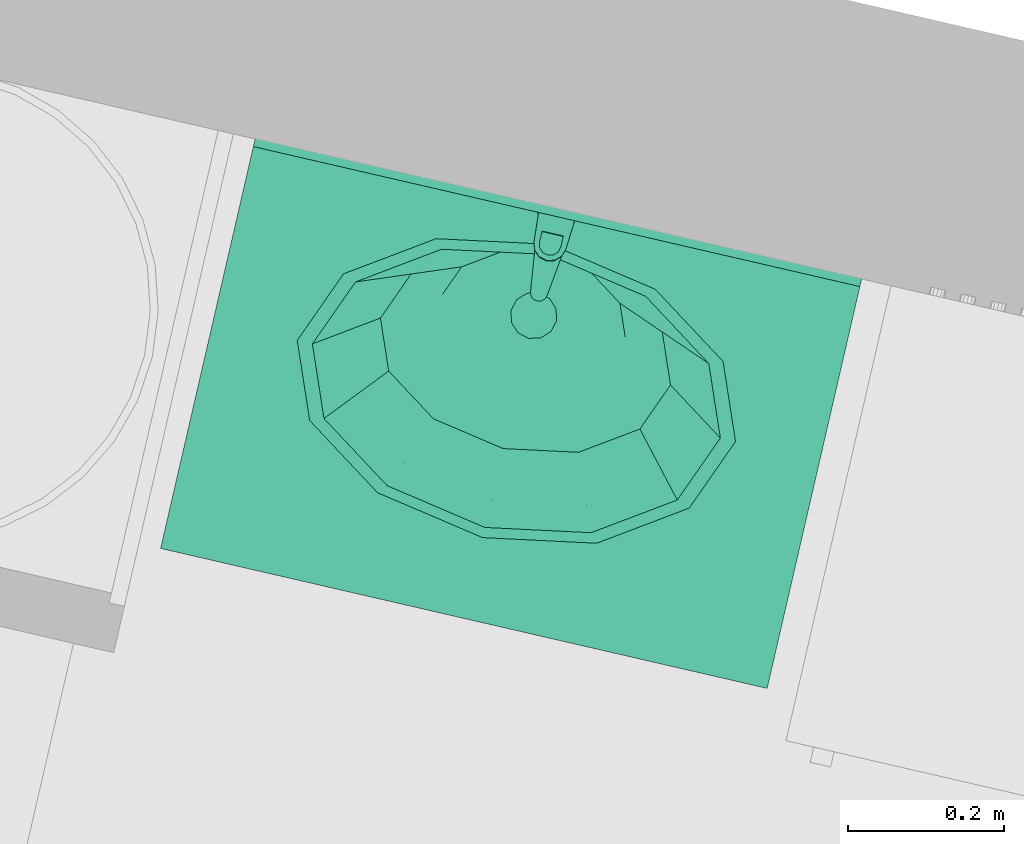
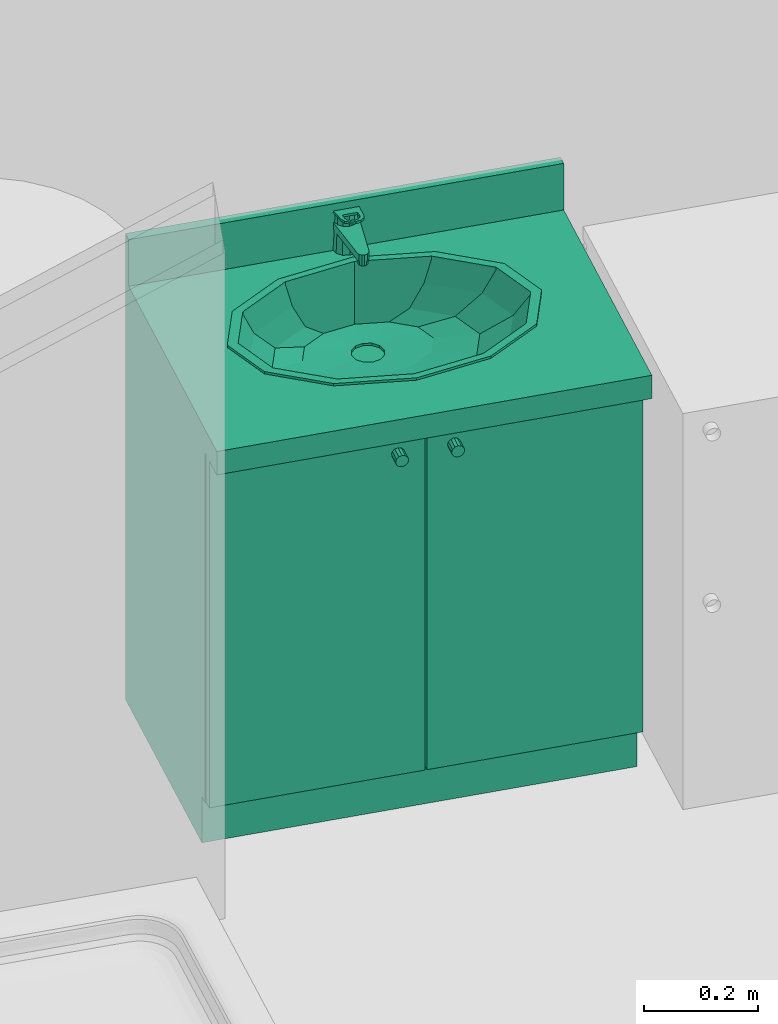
# One storey, part 81 of 90: 1 flow terminal.
"""IFC2X3 building model written with IfcOpenShell, lengths in metres."""

from ifc_helpers import new_model, entity, si_unit, converted_unit, derived_unit, money_unit, direction, frame, origin_with_axes, place, context, subcontext, project, spatial, open_shell, faceted_brep, surface_model, source, transform, mapped, type_object, element, save


model = new_model("IFC2X3")

# Units and contexts
model_context = context("Model", 3, precision=1e-05, world=origin_with_axes(), true_north=direction((0.0, 1.0)))
body_context = subcontext(model_context, "Body", "Model", "MODEL_VIEW")
ifc_project = project(units=[si_unit("LENGTHUNIT", "METRE"), si_unit("AREAUNIT", "SQUARE_METRE"), si_unit("VOLUMEUNIT", "CUBIC_METRE"), converted_unit("PLANEANGLEUNIT", "DEGREE", entity("IfcPlaneAngleMeasure", 0.0174532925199), si_unit("PLANEANGLEUNIT", "RADIAN"), dimensions=[0, 0, 0, 0, 0, 0, 0]), si_unit("SOLIDANGLEUNIT", "STERADIAN"), money_unit("EUR"), converted_unit("TIMEUNIT", "Year", entity("IfcTimeMeasure", 31556926.0), si_unit("TIMEUNIT", "SECOND"), dimensions=[0, 0, 1, 0, 0, 0, 0]), si_unit("MASSUNIT", "GRAM", prefix="KILO"), si_unit("THERMODYNAMICTEMPERATUREUNIT", "DEGREE_CELSIUS"), si_unit("LUMINOUSINTENSITYUNIT", "LUMEN"), si_unit("ENERGYUNIT", "JOULE", prefix="MEGA"), derived_unit("THERMALCONDUCTANCEUNIT", [(si_unit("POWERUNIT", "WATT"), 1), (si_unit("LENGTHUNIT", "METRE"), -1), (si_unit("THERMODYNAMICTEMPERATUREUNIT", "KELVIN"), -1)]), derived_unit("SPECIFICHEATCAPACITYUNIT", [(si_unit("ENERGYUNIT", "JOULE"), 1), (si_unit("MASSUNIT", "GRAM", prefix="KILO"), -1), (si_unit("THERMODYNAMICTEMPERATUREUNIT", "KELVIN"), -1)]), derived_unit("MASSDENSITYUNIT", [(si_unit("MASSUNIT", "GRAM", prefix="KILO"), 1), (si_unit("VOLUMEUNIT", "CUBIC_METRE"), -1)])], contexts=[model_context])

# Site, building, storey
site_placement = place(None, origin_with_axes())
site = spatial("IfcSite", under=ifc_project, at=site_placement, Name="Site", CompositionType="ELEMENT")
building_placement = place(site_placement, origin_with_axes())
building = spatial("IfcBuilding", under=site, at=building_placement, Name="Bâtiment", CompositionType="ELEMENT")
storey_placement = place(building_placement, frame((0.0, 0.0, 2.72), z_axis=(0.0, 0.0, 1.0), x_axis=(1.0, 0.0, 0.0)))
storey = spatial("IfcBuildingStorey", under=building, at=storey_placement, Name="R+1", CompositionType="ELEMENT", Elevation=2.72)

# Flow terminal
sanitary_terminal_type = type_object("IfcSanitaryTerminalType", Name="Lavabo sur meuble 23", PredefinedType="NOTDEFINED")
shared_shape = source(origin_with_axes(), body_context, "Body", "SurfaceModel", [
    faceted_brep([(0.0, 0.09, 0.0), (0.8, 0.09, 0.0), (0.8, 0.09, 0.1), (0.0, 0.09, 0.1), (0.0, 0.55, 0.0), (0.8, 0.55, 0.0), (0.8, 0.55, 0.1), (0.0, 0.55, 0.1)], [[[0, 1, 2, 3]], [[0, 4, 5, 1]], [[1, 5, 6, 2]], [[3, 2, 6, 7]], [[4, 0, 3, 7]], [[5, 4, 7, 6]]]),
    faceted_brep([(0.0, 0.07, 0.1), (0.02, 0.07, 0.1), (0.02, 0.07, 0.12), (0.0, 0.07, 0.12), (0.0, 0.55, 0.1), (0.02, 0.55, 0.1), (0.78, 0.55, 0.1), (0.8, 0.55, 0.1), (0.8, 0.07, 0.1), (0.78, 0.07, 0.1), (0.78, 0.07, 0.12), (0.8, 0.07, 0.12), (0.8, 0.55, 0.12), (0.78, 0.55, 0.12), (0.02, 0.55, 0.12), (0.0, 0.55, 0.12)], [[[0, 1, 2, 3]], [[0, 4, 5, 6, 7, 8, 9, 1]], [[1, 9, 10, 2]], [[3, 2, 10, 11, 12, 13, 14, 15]], [[4, 0, 3, 15]], [[5, 4, 15, 14]], [[6, 5, 14, 13]], [[7, 6, 13, 12]], [[8, 7, 12, 11]], [[9, 8, 11, 10]]]),
    faceted_brep([(0.0, 0.07, 0.12), (0.02, 0.07, 0.12), (0.02, 0.07, 0.85), (0.0, 0.07, 0.85), (0.0, 0.55, 0.12), (0.8, 0.55, 0.12), (0.8, 0.07, 0.12), (0.78, 0.07, 0.12), (0.78, 0.53, 0.12), (0.02, 0.53, 0.12), (0.02, 0.53, 0.85), (0.78, 0.53, 0.85), (0.78, 0.07, 0.85), (0.8, 0.07, 0.85), (0.8, 0.55, 0.85), (0.0, 0.55, 0.85)], [[[0, 1, 2, 3]], [[0, 4, 5, 6, 7, 8, 9, 1]], [[1, 9, 10, 2]], [[3, 2, 10, 11, 12, 13, 14, 15]], [[4, 0, 3, 15]], [[5, 4, 15, 14]], [[6, 5, 14, 13]], [[7, 6, 13, 12]], [[8, 7, 12, 11]], [[9, 8, 11, 10]]]),
    faceted_brep([(0.78, 0.07, 0.323333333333), (0.78, 0.53, 0.323333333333), (0.78, 0.53, 0.343333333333), (0.78, 0.07, 0.343333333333), (0.02, 0.07, 0.323333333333), (0.02, 0.53, 0.323333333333), (0.02, 0.53, 0.343333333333), (0.02, 0.07, 0.343333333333)], [[[0, 1, 2, 3]], [[0, 4, 5, 1]], [[1, 5, 6, 2]], [[3, 2, 6, 7]], [[4, 0, 3, 7]], [[5, 4, 7, 6]]]),
    faceted_brep([(0.78, 0.07, 0.566666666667), (0.78, 0.53, 0.566666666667), (0.78, 0.53, 0.586666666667), (0.78, 0.07, 0.586666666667), (0.02, 0.07, 0.566666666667), (0.02, 0.53, 0.566666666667), (0.02, 0.53, 0.586666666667), (0.02, 0.07, 0.586666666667)], [[[0, 1, 2, 3]], [[0, 4, 5, 1]], [[1, 5, 6, 2]], [[3, 2, 6, 7]], [[4, 0, 3, 7]], [[5, 4, 7, 6]]]),
    faceted_brep([(0.0, 0.55, 0.85), (0.8, 0.55, 0.85), (0.8, 0.0, 0.85), (0.0, 0.0, 0.85), (0.535, 0.144115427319, 0.85), (0.633826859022, 0.21, 0.85), (0.67, 0.3, 0.85), (0.633826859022, 0.39, 0.85), (0.535, 0.455884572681, 0.85), (0.4, 0.48, 0.85), (0.265, 0.455884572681, 0.85), (0.166173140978, 0.39, 0.85), (0.13, 0.3, 0.85), (0.166173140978, 0.21, 0.85), (0.265, 0.144115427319, 0.85), (0.4, 0.12, 0.85), (0.0, 0.55, 0.9), (0.8, 0.55, 0.9), (0.8, 0.0, 0.9), (0.0, 0.0, 0.9), (0.535, 0.144115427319, 0.9), (0.633826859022, 0.21, 0.9), (0.67, 0.3, 0.9), (0.633826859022, 0.39, 0.9), (0.535, 0.455884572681, 0.9), (0.4, 0.48, 0.9), (0.265, 0.455884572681, 0.9), (0.166173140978, 0.39, 0.9), (0.13, 0.3, 0.9), (0.166173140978, 0.21, 0.9), (0.265, 0.144115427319, 0.9), (0.4, 0.12, 0.9)], [[[0, 1, 2, 3], [4, 5, 6, 7, 8, 9, 10, 11, 12, 13, 14, 15]], [[0, 16, 17, 1]], [[1, 17, 18, 2]], [[2, 18, 19, 3]], [[3, 19, 16, 0]], [[20, 21, 5, 4]], [[21, 22, 6, 5]], [[22, 23, 7, 6]], [[23, 24, 8, 7]], [[24, 25, 9, 8]], [[25, 26, 10, 9]], [[26, 27, 11, 10]], [[27, 28, 12, 11]], [[28, 29, 13, 12]], [[29, 30, 14, 13]], [[30, 31, 15, 14]], [[31, 20, 4, 15]], [[18, 17, 16, 19], [24, 23, 22, 21, 20, 31, 30, 29, 28, 27, 26, 25]]]),
    faceted_brep([(0.0, 0.53, 0.9), (0.8, 0.53, 0.9), (0.8, 0.53, 1.0), (0.0, 0.53, 1.0), (0.0, 0.55, 0.9), (0.8, 0.55, 0.9), (0.8, 0.55, 1.0), (0.0, 0.55, 1.0)], [[[0, 1, 2, 3]], [[0, 4, 5, 1]], [[1, 5, 6, 2]], [[3, 2, 6, 7]], [[4, 0, 3, 7]], [[5, 4, 7, 6]]]),
    faceted_brep([(0.689, 0.3, 0.905), (0.689, 0.3, 0.9), (0.650281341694, 0.396691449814, 0.9), (0.650281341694, 0.396691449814, 0.905), (0.650281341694, 0.203308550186, 0.905), (0.650281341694, 0.203308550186, 0.9), (0.5445, 0.132525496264, 0.9), (0.4, 0.106617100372, 0.9), (0.2555, 0.132525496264, 0.9), (0.149718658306, 0.203308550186, 0.9), (0.111, 0.3, 0.9), (0.149718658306, 0.396691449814, 0.9), (0.2555, 0.467474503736, 0.9), (0.4, 0.493382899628, 0.9), (0.5445, 0.467474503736, 0.9), (0.669, 0.3, 0.9), (0.632960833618, 0.39, 0.9), (0.5345, 0.455884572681, 0.9), (0.4, 0.48, 0.9), (0.2655, 0.455884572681, 0.9), (0.167039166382, 0.39, 0.9), (0.131, 0.3, 0.9), (0.167039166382, 0.21, 0.9), (0.2655, 0.144115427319, 0.9), (0.4, 0.12, 0.9), (0.5345, 0.144115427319, 0.9), (0.632960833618, 0.21, 0.9), (0.5445, 0.467474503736, 0.905), (0.4, 0.493382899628, 0.905), (0.2555, 0.467474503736, 0.905), (0.149718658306, 0.396691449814, 0.905), (0.111, 0.3, 0.905), (0.149718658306, 0.203308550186, 0.905), (0.2555, 0.132525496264, 0.905), (0.4, 0.106617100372, 0.905), (0.5445, 0.132525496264, 0.905), (0.669, 0.3, 0.905), (0.632960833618, 0.21, 0.905), (0.5345, 0.144115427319, 0.905), (0.4, 0.12, 0.905), (0.2655, 0.144115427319, 0.905), (0.167039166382, 0.21, 0.905), (0.131, 0.3, 0.905), (0.167039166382, 0.39, 0.905), (0.2655, 0.455884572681, 0.905), (0.4, 0.48, 0.905), (0.5345, 0.455884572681, 0.905), (0.632960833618, 0.39, 0.905)], [[[0, 1, 2, 3]], [[4, 5, 1, 0]], [[1, 5, 6, 7, 8, 9, 10, 11, 12, 13, 14, 2], [15, 16, 17, 18, 19, 20, 21, 22, 23, 24, 25, 26]], [[3, 2, 14, 27]], [[0, 3, 27, 28, 29, 30, 31, 32, 33, 34, 35, 4], [36, 37, 38, 39, 40, 41, 42, 43, 44, 45, 46, 47]], [[35, 6, 5, 4]], [[34, 7, 6, 35]], [[33, 8, 7, 34]], [[32, 9, 8, 33]], [[31, 10, 9, 32]], [[30, 11, 10, 31]], [[29, 12, 11, 30]], [[28, 13, 12, 29]], [[27, 14, 13, 28]], [[47, 16, 15, 36]], [[46, 17, 16, 47]], [[45, 18, 17, 46]], [[44, 19, 18, 45]], [[43, 20, 19, 44]], [[42, 21, 20, 43]], [[41, 22, 21, 42]], [[40, 23, 22, 41]], [[39, 24, 23, 40]], [[38, 25, 24, 39]], [[37, 26, 25, 38]], [[36, 15, 26, 37]]]),
    surface_model("IfcShellBasedSurfaceModel", [(0.4, 0.48, 0.9), (0.4, 0.48, 0.848), (0.52105, 0.458296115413, 0.848), (0.5345, 0.455884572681, 0.9), (0.2655, 0.455884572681, 0.9), (0.27895, 0.458296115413, 0.848), (0.609664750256, 0.399, 0.848), (0.632960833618, 0.39, 0.9), (0.167039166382, 0.39, 0.9), (0.190335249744, 0.399, 0.848), (0.6421, 0.318, 0.848), (0.669, 0.3, 0.9), (0.131, 0.3, 0.9), (0.1579, 0.318, 0.848), (0.609664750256, 0.237, 0.848), (0.632960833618, 0.21, 0.9), (0.167039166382, 0.21, 0.9), (0.190335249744, 0.237, 0.848), (0.52105, 0.177703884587, 0.848), (0.5345, 0.144115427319, 0.9), (0.2655, 0.144115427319, 0.9), (0.27895, 0.177703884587, 0.848), (0.4, 0.156, 0.848), (0.4, 0.12, 0.9)], [open_shell([[[0, 1, 2, 3]], [[4, 5, 1, 0]], [[3, 2, 6, 7]], [[8, 9, 5, 4]], [[7, 6, 10, 11]], [[12, 13, 9, 8]], [[11, 10, 14, 15]], [[16, 17, 13, 12]], [[15, 14, 18, 19]], [[20, 21, 17, 16]], [[19, 18, 22, 23]], [[23, 22, 21, 20]]])]),
    surface_model("IfcShellBasedSurfaceModel", [(0.4, 0.48, 0.848), (0.4, 0.48, 0.796), (0.4956295, 0.462853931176, 0.796), (0.52105, 0.458296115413, 0.848), (0.27895, 0.458296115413, 0.848), (0.3043705, 0.462853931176, 0.796), (0.565635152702, 0.41601, 0.796), (0.609664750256, 0.399, 0.848), (0.190335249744, 0.399, 0.848), (0.234364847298, 0.41601, 0.796), (0.591259, 0.35202, 0.796), (0.6421, 0.318, 0.848), (0.1579, 0.318, 0.848), (0.208741, 0.35202, 0.796), (0.565635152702, 0.28803, 0.796), (0.609664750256, 0.237, 0.848), (0.190335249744, 0.237, 0.848), (0.234364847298, 0.28803, 0.796), (0.4956295, 0.241186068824, 0.796), (0.52105, 0.177703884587, 0.848), (0.27895, 0.177703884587, 0.848), (0.3043705, 0.241186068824, 0.796), (0.4, 0.22404, 0.796), (0.4, 0.156, 0.848)], [open_shell([[[0, 1, 2, 3]], [[4, 5, 1, 0]], [[3, 2, 6, 7]], [[8, 9, 5, 4]], [[7, 6, 10, 11]], [[12, 13, 9, 8]], [[11, 10, 14, 15]], [[16, 17, 13, 12]], [[15, 14, 18, 19]], [[20, 21, 17, 16]], [[19, 18, 22, 23]], [[23, 22, 21, 20]]])]),
    surface_model("IfcShellBasedSurfaceModel", [(0.4, 0.48, 0.796), (0.4, 0.48, 0.77), (0.460246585, 0.469197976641, 0.77), (0.4956295, 0.462853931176, 0.796), (0.3043705, 0.462853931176, 0.796), (0.339753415, 0.469197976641, 0.77), (0.504350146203, 0.4396863, 0.77), (0.565635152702, 0.41601, 0.796), (0.234364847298, 0.41601, 0.796), (0.295649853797, 0.4396863, 0.77), (0.52049317, 0.3993726, 0.77), (0.591259, 0.35202, 0.796), (0.208741, 0.35202, 0.796), (0.27950683, 0.3993726, 0.77), (0.504350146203, 0.3590589, 0.77), (0.565635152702, 0.28803, 0.796), (0.234364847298, 0.28803, 0.796), (0.295649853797, 0.3590589, 0.77), (0.460246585, 0.329547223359, 0.77), (0.4956295, 0.241186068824, 0.796), (0.3043705, 0.241186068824, 0.796), (0.339753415, 0.329547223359, 0.77), (0.4, 0.3187452, 0.77), (0.4, 0.22404, 0.796)], [open_shell([[[0, 1, 2, 3]], [[4, 5, 1, 0]], [[3, 2, 6, 7]], [[8, 9, 5, 4]], [[7, 6, 10, 11]], [[12, 13, 9, 8]], [[11, 10, 14, 15]], [[16, 17, 13, 12]], [[15, 14, 18, 19]], [[20, 21, 17, 16]], [[19, 18, 22, 23]], [[23, 22, 21, 20]]])]),
    surface_model("IfcShellBasedSurfaceModel", [(0.4, 0.48, 0.77), (0.415, 0.425353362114, 0.763), (0.460246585, 0.469197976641, 0.77), (0.4, 0.4293726, 0.763), (0.425980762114, 0.4143726, 0.763), (0.339753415, 0.469197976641, 0.77), (0.504350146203, 0.4396863, 0.77), (0.385, 0.425353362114, 0.763), (0.43, 0.3993726, 0.763), (0.295649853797, 0.4396863, 0.77), (0.52049317, 0.3993726, 0.77), (0.374019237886, 0.4143726, 0.763), (0.425980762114, 0.3843726, 0.763), (0.27950683, 0.3993726, 0.77), (0.504350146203, 0.3590589, 0.77), (0.37, 0.3993726, 0.763), (0.415, 0.373391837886, 0.763), (0.295649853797, 0.3590589, 0.77), (0.460246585, 0.329547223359, 0.77), (0.374019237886, 0.3843726, 0.763), (0.4, 0.3693726, 0.763), (0.339753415, 0.329547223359, 0.77), (0.4, 0.3187452, 0.77), (0.385, 0.373391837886, 0.763)], [open_shell([[[0, 1, 2]], [[0, 3, 1]], [[2, 1, 4]], [[5, 3, 0]], [[2, 4, 6]], [[5, 7, 3]], [[6, 4, 8]], [[9, 7, 5]], [[6, 8, 10]], [[9, 11, 7]], [[10, 8, 12]], [[13, 11, 9]], [[10, 12, 14]], [[13, 15, 11]], [[14, 12, 16]], [[17, 15, 13]], [[14, 16, 18]], [[17, 19, 15]], [[18, 16, 20]], [[21, 19, 17]], [[18, 20, 22]], [[21, 23, 19]], [[22, 20, 23]], [[22, 23, 21]]])]),
    surface_model("IfcShellBasedSurfaceModel", [(0.43, 0.3993726, 0.763), (0.43, 0.3993726, 0.758), (0.425980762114, 0.4143726, 0.758), (0.425980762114, 0.4143726, 0.763), (0.425980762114, 0.3843726, 0.763), (0.425980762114, 0.3843726, 0.758), (0.415, 0.373391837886, 0.758), (0.4, 0.3693726, 0.758), (0.385, 0.373391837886, 0.758), (0.374019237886, 0.3843726, 0.758), (0.37, 0.3993726, 0.758), (0.374019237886, 0.4143726, 0.758), (0.385, 0.425353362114, 0.758), (0.4, 0.4293726, 0.758), (0.415, 0.425353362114, 0.758), (0.415, 0.425353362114, 0.763), (0.415, 0.373391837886, 0.763), (0.4, 0.3693726, 0.763), (0.385, 0.373391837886, 0.763), (0.374019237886, 0.3843726, 0.763), (0.37, 0.3993726, 0.763), (0.374019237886, 0.4143726, 0.763), (0.385, 0.425353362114, 0.763), (0.4, 0.4293726, 0.763)], [open_shell([[[0, 1, 2, 3]], [[4, 5, 1, 0]], [[1, 5, 6, 7, 8, 9, 10, 11, 12, 13, 14, 2]], [[3, 2, 14, 15]], [[16, 6, 5, 4]], [[17, 7, 6, 16]], [[18, 8, 7, 17]], [[19, 9, 8, 18]], [[20, 10, 9, 19]], [[21, 11, 10, 20]], [[22, 12, 11, 21]], [[23, 13, 12, 22]], [[15, 14, 13, 23]]])]),
    faceted_brep([(0.4125, 0.554150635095, 0.9), (0.4, 0.5575, 0.9), (0.4, 0.553701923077, 0.975961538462), (0.410587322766, 0.550837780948, 0.976507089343), (0.421650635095, 0.545, 0.9), (0.425, 0.5325, 0.9), (0.421650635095, 0.52, 0.9), (0.4125, 0.510849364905, 0.9), (0.4, 0.5075, 0.9), (0.3875, 0.510849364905, 0.9), (0.378349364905, 0.52, 0.9), (0.375, 0.5325, 0.9), (0.378349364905, 0.545, 0.9), (0.3875, 0.554150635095, 0.9), (0.389412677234, 0.550837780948, 0.976507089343), (0.381726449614, 0.543050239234, 0.977990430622), (0.379, 0.5325, 0.98), (0.381899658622, 0.522049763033, 0.981990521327), (0.389585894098, 0.514462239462, 0.983435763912), (0.4, 0.511698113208, 0.983962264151), (0.410414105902, 0.514462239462, 0.983435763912), (0.418100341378, 0.522049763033, 0.981990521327), (0.421, 0.5325, 0.98), (0.418273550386, 0.543050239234, 0.977990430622)], [[[0, 1, 2, 3]], [[0, 4, 5, 6, 7, 8, 9, 10, 11, 12, 13, 1]], [[1, 13, 14, 2]], [[3, 2, 14, 15, 16, 17, 18, 19, 20, 21, 22, 23]], [[4, 0, 3, 23]], [[5, 4, 23, 22]], [[6, 5, 22, 21]], [[7, 6, 21, 20]], [[8, 7, 20, 19]], [[9, 8, 19, 18]], [[10, 9, 18, 17]], [[11, 10, 17, 16]], [[12, 11, 16, 15]], [[13, 12, 15, 14]]]),
    faceted_brep([(0.409, 0.4295, 0.935), (0.407794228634, 0.434, 0.935), (0.407794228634, 0.434, 0.945), (0.409, 0.4295, 0.945), (0.407794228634, 0.425, 0.935), (0.4045, 0.421705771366, 0.935), (0.4, 0.4205, 0.935), (0.3955, 0.421705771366, 0.935), (0.392205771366, 0.425, 0.935), (0.391, 0.4295, 0.935), (0.392205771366, 0.434, 0.935), (0.3955, 0.437294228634, 0.935), (0.4, 0.4385, 0.935), (0.4045, 0.437294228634, 0.935), (0.4045, 0.437294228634, 0.945), (0.4, 0.4385, 0.945), (0.3955, 0.437294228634, 0.945), (0.392205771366, 0.434, 0.945), (0.391, 0.4295, 0.945), (0.392205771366, 0.425, 0.945), (0.3955, 0.421705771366, 0.945), (0.4, 0.4205, 0.945), (0.4045, 0.421705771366, 0.945), (0.407794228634, 0.425, 0.945)], [[[0, 1, 2, 3]], [[0, 4, 5, 6, 7, 8, 9, 10, 11, 12, 13, 1]], [[1, 13, 14, 2]], [[3, 2, 14, 15, 16, 17, 18, 19, 20, 21, 22, 23]], [[4, 0, 3, 23]], [[5, 4, 23, 22]], [[6, 5, 22, 21]], [[7, 6, 21, 20]], [[8, 7, 20, 19]], [[9, 8, 19, 18]], [[10, 9, 18, 17]], [[11, 10, 17, 16]], [[12, 11, 16, 15]], [[13, 12, 15, 14]]]),
    faceted_brep([(0.387128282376, 0.552756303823, 0.96), (0.378272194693, 0.54269320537, 0.96), (0.3761946, 0.5294501, 0.96), (0.389088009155, 0.428111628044, 0.96), (0.390971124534, 0.423216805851, 0.96), (0.394906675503, 0.419750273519, 0.96), (0.400000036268, 0.41850003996, 0.96), (0.405093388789, 0.419750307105, 0.96), (0.409028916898, 0.423216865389, 0.96), (0.410912, 0.4281117, 0.96), (0.423805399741, 0.529450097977, 0.96), (0.421727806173, 0.542693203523, 0.96), (0.412871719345, 0.552756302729, 0.96), (0.40000000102, 0.556499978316, 0.96), (0.411, 0.551552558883, 0.96), (0.419052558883, 0.5435, 0.96), (0.422, 0.5325, 0.96), (0.419052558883, 0.5215, 0.96), (0.411, 0.513447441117, 0.96), (0.4, 0.5105, 0.96), (0.389, 0.513447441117, 0.96), (0.380947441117, 0.5215, 0.96), (0.378, 0.5325, 0.96), (0.380947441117, 0.5435, 0.96), (0.389, 0.551552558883, 0.96), (0.4, 0.5545, 0.96), (0.378272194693, 0.54269320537, 0.945), (0.387128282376, 0.552756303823, 0.945), (0.3761946, 0.5294501, 0.945), (0.389088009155, 0.428111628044, 0.945), (0.390971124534, 0.423216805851, 0.945), (0.394906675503, 0.419750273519, 0.945), (0.400000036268, 0.41850003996, 0.945), (0.405093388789, 0.419750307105, 0.945), (0.409028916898, 0.423216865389, 0.945), (0.410912, 0.4281117, 0.945), (0.423805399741, 0.529450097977, 0.945), (0.421727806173, 0.542693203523, 0.945), (0.412871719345, 0.552756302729, 0.945), (0.40000000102, 0.556499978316, 0.945), (0.411375, 0.552202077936, 0.945), (0.419702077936, 0.543875, 0.945), (0.42275, 0.5325, 0.945), (0.419702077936, 0.521125, 0.945), (0.411375, 0.512797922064, 0.945), (0.4, 0.50975, 0.945), (0.388625, 0.512797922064, 0.945), (0.380297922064, 0.521125, 0.945), (0.37725, 0.5325, 0.945), (0.380297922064, 0.543875, 0.945), (0.388625, 0.552202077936, 0.945), (0.4, 0.55525, 0.945)], [[[0, 1, 2, 3, 4, 5, 6, 7, 8, 9, 10, 11, 12, 13], [14, 15, 16, 17, 18, 19, 20, 21, 22, 23, 24, 25]], [[26, 1, 0, 27]], [[28, 2, 1, 26]], [[29, 3, 2, 28]], [[30, 4, 3, 29]], [[31, 5, 4, 30]], [[32, 6, 5, 31]], [[33, 7, 6, 32]], [[34, 8, 7, 33]], [[35, 9, 8, 34]], [[36, 10, 9, 35]], [[37, 11, 10, 36]], [[38, 12, 11, 37]], [[39, 13, 12, 38]], [[27, 0, 13, 39]], [[40, 41, 15, 14]], [[41, 42, 16, 15]], [[42, 43, 17, 16]], [[43, 44, 18, 17]], [[44, 45, 19, 18]], [[20, 19, 45, 46]], [[21, 20, 46, 47]], [[22, 21, 47, 48]], [[23, 22, 48, 49]], [[24, 23, 49, 50]], [[50, 51, 25, 24]], [[51, 40, 14, 25]], [[32, 31, 30, 29, 28, 26, 27, 39, 38, 37, 36, 35, 34, 33], [44, 43, 42, 41, 40, 51, 50, 49, 48, 47, 46, 45]]]),
    faceted_brep([(0.423893, 0.53080743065, 0.980322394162), (0.421296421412, 0.543274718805, 0.977947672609), (0.421296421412, 0.544023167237, 0.981877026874), (0.423893, 0.531555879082, 0.984251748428), (0.420945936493, 0.490663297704, 0.987968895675), (0.417663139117, 0.480985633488, 0.989812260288), (0.410061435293, 0.474036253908, 0.991135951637), (0.399999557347, 0.47151438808, 0.991616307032), (0.389937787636, 0.474036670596, 0.991135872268), (0.382336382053, 0.480986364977, 0.989812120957), (0.379054, 0.490664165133, 0.987968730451), (0.376106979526, 0.530807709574, 0.980322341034), (0.378703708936, 0.543274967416, 0.977947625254), (0.38752831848, 0.552591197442, 0.976173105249), (0.400000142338, 0.556031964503, 0.975517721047), (0.41247192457, 0.552591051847, 0.976173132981), (0.414, 0.506959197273, 0.984864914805), (0.386, 0.506959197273, 0.984864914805), (0.386, 0.492143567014, 0.987686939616), (0.387875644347, 0.485267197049, 0.988996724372), (0.393, 0.480233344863, 0.989955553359), (0.4, 0.478390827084, 0.990306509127), (0.407, 0.480233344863, 0.989955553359), (0.412124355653, 0.485267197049, 0.988996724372), (0.414, 0.492143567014, 0.987686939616), (0.41247192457, 0.553339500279, 0.980102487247), (0.400000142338, 0.556780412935, 0.979447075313), (0.38752831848, 0.553339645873, 0.980102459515), (0.378703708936, 0.544023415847, 0.98187697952), (0.376106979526, 0.531556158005, 0.984251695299), (0.379054, 0.491412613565, 0.991898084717), (0.382336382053, 0.481734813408, 0.993741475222), (0.389937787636, 0.474785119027, 0.995065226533), (0.399999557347, 0.472262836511, 0.995545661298), (0.410061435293, 0.47478470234, 0.995065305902), (0.417663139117, 0.48173408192, 0.993741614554), (0.420945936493, 0.491411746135, 0.991898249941), (0.414, 0.507707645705, 0.988794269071), (0.414, 0.492892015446, 0.991616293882), (0.412124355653, 0.486015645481, 0.992926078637), (0.407, 0.480981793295, 0.993884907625), (0.4, 0.479139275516, 0.994235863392), (0.393, 0.480981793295, 0.993884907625), (0.387875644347, 0.486015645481, 0.992926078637), (0.386, 0.492892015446, 0.991616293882), (0.386, 0.507707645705, 0.988794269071)], [[[0, 1, 2, 3]], [[0, 4, 5, 6, 7, 8, 9, 10, 11, 12, 13, 14, 15, 1], [16, 17, 18, 19, 20, 21, 22, 23, 24]], [[1, 15, 25, 2]], [[3, 2, 25, 26, 27, 28, 29, 30, 31, 32, 33, 34, 35, 36], [37, 38, 39, 40, 41, 42, 43, 44, 45]], [[4, 0, 3, 36]], [[5, 4, 36, 35]], [[6, 5, 35, 34]], [[7, 6, 34, 33]], [[8, 7, 33, 32]], [[9, 8, 32, 31]], [[10, 9, 31, 30]], [[11, 10, 30, 29]], [[12, 11, 29, 28]], [[13, 12, 28, 27]], [[14, 13, 27, 26]], [[15, 14, 26, 25]], [[17, 16, 37, 45]], [[18, 17, 45, 44]], [[19, 18, 44, 43]], [[20, 19, 43, 42]], [[21, 20, 42, 41]], [[22, 21, 41, 40]], [[23, 22, 40, 39]], [[24, 23, 39, 38]], [[16, 24, 38, 37]]]),
    faceted_brep([(0.0015, 0.07, 0.1015), (0.3985, 0.07, 0.1015), (0.3985, 0.05, 0.1015), (0.0015, 0.05, 0.1015), (0.0015, 0.07, 0.8485), (0.3985, 0.07, 0.8485), (0.3985, 0.05, 0.8485), (0.0015, 0.05, 0.8485)], [[[0, 1, 2, 3]], [[0, 4, 5, 1]], [[1, 5, 6, 2]], [[3, 2, 6, 7]], [[4, 0, 3, 7]], [[5, 4, 7, 6]]]),
    faceted_brep([(0.358892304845, 0.05, 0.7855), (0.3545, 0.05, 0.781107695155), (0.3485, 0.05, 0.7795), (0.3425, 0.05, 0.781107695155), (0.338107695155, 0.05, 0.7855), (0.3365, 0.05, 0.7915), (0.338107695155, 0.05, 0.7975), (0.3425, 0.05, 0.801892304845), (0.3485, 0.05, 0.8035), (0.3545, 0.05, 0.801892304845), (0.358892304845, 0.05, 0.7975), (0.3605, 0.05, 0.7915), (0.358892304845, 0.025, 0.7855), (0.3545, 0.025, 0.781107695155), (0.3485, 0.025, 0.7795), (0.3425, 0.025, 0.781107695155), (0.338107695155, 0.025, 0.7855), (0.3365, 0.025, 0.7915), (0.338107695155, 0.025, 0.7975), (0.3425, 0.025, 0.801892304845), (0.3485, 0.025, 0.8035), (0.3545, 0.025, 0.801892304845), (0.358892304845, 0.025, 0.7975), (0.3605, 0.025, 0.7915)], [[[0, 1, 2, 3, 4, 5, 6, 7, 8, 9, 10, 11]], [[1, 0, 12, 13]], [[2, 1, 13, 14]], [[3, 2, 14, 15]], [[4, 3, 15, 16]], [[5, 4, 16, 17]], [[6, 5, 17, 18]], [[7, 6, 18, 19]], [[8, 7, 19, 20]], [[9, 8, 20, 21]], [[10, 9, 21, 22]], [[11, 10, 22, 23]], [[0, 11, 23, 12]], [[12, 23, 22, 21, 20, 19, 18, 17, 16, 15, 14, 13]]]),
    faceted_brep([(0.7985, 0.07, 0.1015), (0.7985, 0.05, 0.1015), (0.4015, 0.05, 0.1015), (0.4015, 0.07, 0.1015), (0.7985, 0.07, 0.8485), (0.7985, 0.05, 0.8485), (0.4015, 0.05, 0.8485), (0.4015, 0.07, 0.8485)], [[[0, 1, 2, 3]], [[4, 5, 1, 0]], [[1, 5, 6, 2]], [[3, 2, 6, 7]], [[0, 3, 7, 4]], [[7, 6, 5, 4]]]),
    faceted_brep([(0.441107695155, 0.05, 0.7855), (0.4395, 0.05, 0.7915), (0.441107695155, 0.05, 0.7975), (0.4455, 0.05, 0.801892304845), (0.4515, 0.05, 0.8035), (0.4575, 0.05, 0.801892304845), (0.461892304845, 0.05, 0.7975), (0.4635, 0.05, 0.7915), (0.461892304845, 0.05, 0.7855), (0.4575, 0.05, 0.781107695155), (0.4515, 0.05, 0.7795), (0.4455, 0.05, 0.781107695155), (0.441107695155, 0.025, 0.7855), (0.4395, 0.025, 0.7915), (0.441107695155, 0.025, 0.7975), (0.4455, 0.025, 0.801892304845), (0.4515, 0.025, 0.8035), (0.4575, 0.025, 0.801892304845), (0.461892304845, 0.025, 0.7975), (0.4635, 0.025, 0.7915), (0.461892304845, 0.025, 0.7855), (0.4575, 0.025, 0.781107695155), (0.4515, 0.025, 0.7795), (0.4455, 0.025, 0.781107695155)], [[[0, 1, 2, 3, 4, 5, 6, 7, 8, 9, 10, 11]], [[0, 12, 13, 1]], [[1, 13, 14, 2]], [[2, 14, 15, 3]], [[3, 15, 16, 4]], [[4, 16, 17, 5]], [[5, 17, 18, 6]], [[6, 18, 19, 7]], [[7, 19, 20, 8]], [[8, 20, 21, 9]], [[9, 21, 22, 10]], [[10, 22, 23, 11]], [[11, 23, 12, 0]], [[12, 23, 22, 21, 20, 19, 18, 17, 16, 15, 14, 13]]]),
])
flow_terminal_placement = place(storey_placement, frame((-9.79368016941, 11.2641628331, 0.0), z_axis=(0.0, 0.0, 1.0), x_axis=(0.974387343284, -0.224876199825, 0.0)))
element("IfcFlowTerminal", 1, at=flow_terminal_placement, inside=storey, type_object=sanitary_terminal_type, Name="MOB-002", ObjectType="SANITARY_TERMINAL", context=body_context, shape_type="MappedRepresentation", body=[
    mapped(shared_shape, transform((0.0, 0.0, 0.0))),
])

save(model, "model.ifc")
